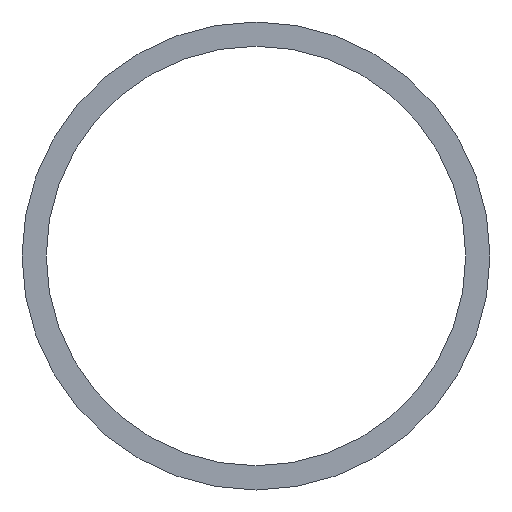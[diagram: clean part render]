
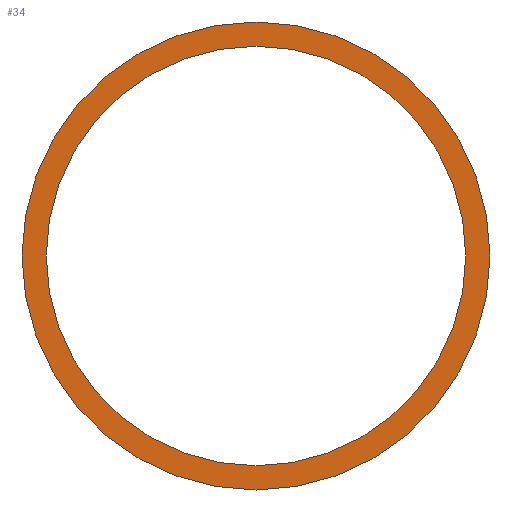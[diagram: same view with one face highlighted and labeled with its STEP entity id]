
A CAD part, front view. The second image highlights one B-rep face of the part: STEP entity #34.
In plain terms, the highlighted planar face has unit normal (0, -1, 0).
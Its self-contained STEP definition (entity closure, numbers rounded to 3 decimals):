
#6 = ORIENTED_EDGE ( 'NONE', *, *, #209, .F. ) ;
#12 = CARTESIAN_POINT ( 'NONE',  ( -85., 2037., 3495.85 ) ) ;
#15 = EDGE_CURVE ( 'NONE', #28, #33, #206, .T. ) ;
#17 = DIRECTION ( 'NONE',  ( -1., 0., 0. ) ) ;
#19 = EDGE_LOOP ( 'NONE', ( #93, #6 ) ) ;
#28 = VERTEX_POINT ( 'NONE', #153 ) ;
#30 = DIRECTION ( 'NONE',  ( 0., 1., 0. ) ) ;
#32 = DIRECTION ( 'NONE',  ( -1., 0., 0. ) ) ;
#33 = VERTEX_POINT ( 'NONE', #139 ) ;
#34 = ADVANCED_FACE ( 'NONE', ( #137, #203 ), #113, .F. ) ;
#44 = DIRECTION ( 'NONE',  ( -1., 0., 0. ) ) ;
#45 = CARTESIAN_POINT ( 'NONE',  ( -85., 2037., 3495.85 ) ) ;
#49 = ORIENTED_EDGE ( 'NONE', *, *, #15, .T. ) ;
#60 = AXIS2_PLACEMENT_3D ( 'NONE', #88, #163, #17 ) ;
#63 = CARTESIAN_POINT ( 'NONE',  ( -85., 2037., 3495.85 ) ) ;
#65 = DIRECTION ( 'NONE',  ( 0., 1., 0. ) ) ;
#75 = AXIS2_PLACEMENT_3D ( 'NONE', #121, #65, #44 ) ;
#80 = ORIENTED_EDGE ( 'NONE', *, *, #89, .T. ) ;
#86 = CARTESIAN_POINT ( 'NONE',  ( -60.85, 2037., 3495.85 ) ) ;
#88 = CARTESIAN_POINT ( 'NONE',  ( -85., 2037., 3495.85 ) ) ;
#89 = EDGE_CURVE ( 'NONE', #33, #28, #134, .T. ) ;
#93 = ORIENTED_EDGE ( 'NONE', *, *, #128, .F. ) ;
#113 = PLANE ( 'NONE',  #75 ) ;
#115 = AXIS2_PLACEMENT_3D ( 'NONE', #63, #30, #122 ) ;
#116 = CIRCLE ( 'NONE', #132, 24.15 ) ;
#121 = CARTESIAN_POINT ( 'NONE',  ( -85., 2037., 3495.85 ) ) ;
#122 = DIRECTION ( 'NONE',  ( -1., 0., 0. ) ) ;
#128 = EDGE_CURVE ( 'NONE', #133, #169, #141, .T. ) ;
#132 = AXIS2_PLACEMENT_3D ( 'NONE', #45, #189, #32 ) ;
#133 = VERTEX_POINT ( 'NONE', #86 ) ;
#134 = CIRCLE ( 'NONE', #194, 21.65 ) ;
#137 = FACE_OUTER_BOUND ( 'NONE', #19, .T. ) ;
#139 = CARTESIAN_POINT ( 'NONE',  ( -106.65, 2037., 3495.85 ) ) ;
#141 = CIRCLE ( 'NONE', #60, 24.15 ) ;
#153 = CARTESIAN_POINT ( 'NONE',  ( -63.35, 2037., 3495.85 ) ) ;
#163 = DIRECTION ( 'NONE',  ( 0., 1., 0. ) ) ;
#169 = VERTEX_POINT ( 'NONE', #196 ) ;
#189 = DIRECTION ( 'NONE',  ( 0., 1., 0. ) ) ;
#193 = DIRECTION ( 'NONE',  ( -1., 0., 0. ) ) ;
#194 = AXIS2_PLACEMENT_3D ( 'NONE', #12, #195, #193 ) ;
#195 = DIRECTION ( 'NONE',  ( 0., 1., 0. ) ) ;
#196 = CARTESIAN_POINT ( 'NONE',  ( -109.15, 2037., 3495.85 ) ) ;
#201 = EDGE_LOOP ( 'NONE', ( #49, #80 ) ) ;
#203 = FACE_BOUND ( 'NONE', #201, .T. ) ;
#206 = CIRCLE ( 'NONE', #115, 21.65 ) ;
#209 = EDGE_CURVE ( 'NONE', #169, #133, #116, .T. ) ;
